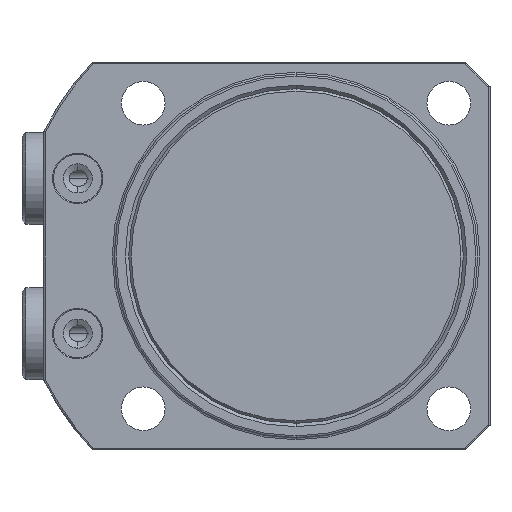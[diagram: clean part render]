
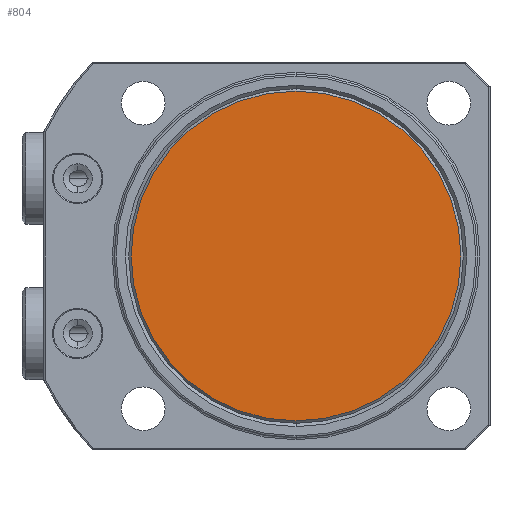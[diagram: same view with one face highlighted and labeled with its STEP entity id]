
A CAD part, front view. The second image highlights one B-rep face of the part: STEP entity #804.
In plain terms, the highlighted planar face has unit normal (0, -1, 0) as drawn and (1, 0, 0) by its records, which use the part's own axes.
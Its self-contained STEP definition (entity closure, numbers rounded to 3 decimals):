
#499=PLANE('',#3008);
#804=ADVANCED_FACE('',(#968),#499,.T.);
#968=FACE_OUTER_BOUND('',#1132,.T.);
#1132=EDGE_LOOP('',(#1898));
#1898=ORIENTED_EDGE('',*,*,#2553,.F.);
#2257=VERTEX_POINT('',#4739);
#2553=EDGE_CURVE('',#2257,#2257,#2765,.T.);
#2765=CIRCLE('',#3006,34.);
#3006=AXIS2_PLACEMENT_3D('',#4738,#3578,#3579);
#3008=AXIS2_PLACEMENT_3D('',#4741,#3582,#3583);
#3578=DIRECTION('',(-1.,0.,0.));
#3579=DIRECTION('',(0.,0.,1.));
#3582=DIRECTION('',(1.,0.,0.));
#3583=DIRECTION('',(0.,0.,1.));
#4738=CARTESIAN_POINT('',(71.,0.,0.));
#4739=CARTESIAN_POINT('',(71.,0.,34.));
#4741=CARTESIAN_POINT('',(71.,0.,0.));
